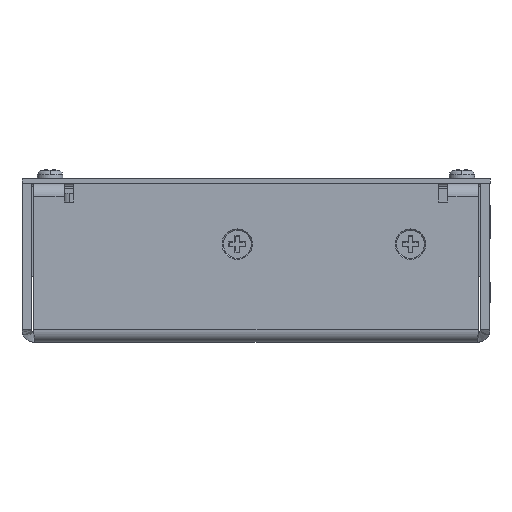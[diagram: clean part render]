
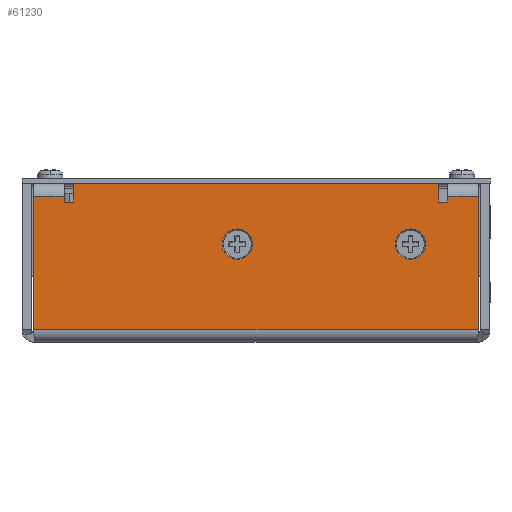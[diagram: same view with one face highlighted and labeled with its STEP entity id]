
A CAD part, front view. The second image highlights one B-rep face of the part: STEP entity #61230.
In plain terms, the highlighted planar face has unit normal (0, -1, 0).
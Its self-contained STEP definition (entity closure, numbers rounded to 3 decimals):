
#13822 = CARTESIAN_POINT ( 'NONE',  ( -178.345, -74.575, 23.463 ) ) ;
#19920 = PLANE ( 'NONE',  #50965 ) ;
#19977 = CARTESIAN_POINT ( 'NONE',  ( -178.345, -74.575, 26.2 ) ) ;
#19991 = DIRECTION ( 'NONE',  ( 0., 1., 0. ) ) ;
#19993 = DIRECTION ( 'NONE',  ( 0., 0., 1. ) ) ;
#24617 = LINE ( 'NONE', #84154, #24620 ) ;
#24620 = VECTOR ( 'NONE', #84156, 1000. ) ;
#24640 = LINE ( 'NONE', #84181, #24643 ) ;
#24643 = VECTOR ( 'NONE', #84183, 1000. ) ;
#25331 = CIRCLE ( 'NONE', #70131, 3.25 ) ;
#25458 = CIRCLE ( 'NONE', #70144, 3.25 ) ;
#28347 = AXIS2_PLACEMENT_3D ( 'NONE', #64723, #64726, #64728 ) ;
#28355 = AXIS2_PLACEMENT_3D ( 'NONE', #64775, #64777, #64779 ) ;
#29212 = VERTEX_POINT ( 'NONE', #81957 ) ;
#29643 = VERTEX_POINT ( 'NONE', #13822 ) ;
#34661 = VECTOR ( 'NONE', #64262, 1000. ) ;
#34663 = VECTOR ( 'NONE', #64252, 1000. ) ;
#34668 = LINE ( 'NONE', #64281, #34684 ) ;
#34672 = LINE ( 'NONE', #64250, #34663 ) ;
#34674 = LINE ( 'NONE', #64260, #34661 ) ;
#34676 = LINE ( 'NONE', #64286, #34690 ) ;
#34684 = VECTOR ( 'NONE', #64289, 1000. ) ;
#34690 = VECTOR ( 'NONE', #64302, 1000. ) ;
#34692 = VECTOR ( 'NONE', #64331, 1000. ) ;
#34698 = LINE ( 'NONE', #64316, #34692 ) ;
#34704 = LINE ( 'NONE', #64423, #34707 ) ;
#34707 = VECTOR ( 'NONE', #64425, 1000. ) ;
#34748 = VECTOR ( 'NONE', #64762, 1000. ) ;
#34750 = LINE ( 'NONE', #64667, #34751 ) ;
#34751 = VECTOR ( 'NONE', #64669, 1000. ) ;
#34756 = LINE ( 'NONE', #64684, #34760 ) ;
#34760 = VECTOR ( 'NONE', #64707, 1000. ) ;
#34769 = CIRCLE ( 'NONE', #28347, 3.25 ) ;
#34774 = LINE ( 'NONE', #64748, #34748 ) ;
#34778 = VECTOR ( 'NONE', #64790, 1000. ) ;
#34780 = CIRCLE ( 'NONE', #28355, 3.25 ) ;
#34781 = LINE ( 'NONE', #64769, #34778 ) ;
#38729 = CARTESIAN_POINT ( 'NONE',  ( -83.345, -74.575, 23.463 ) ) ;
#38731 = CARTESIAN_POINT ( 'NONE',  ( -91.845, -74.575, 26.2 ) ) ;
#38742 = CARTESIAN_POINT ( 'NONE',  ( -169.845, -74.575, 26.2 ) ) ;
#38743 = CARTESIAN_POINT ( 'NONE',  ( -97.845, -74.575, 9.95 ) ) ;
#38786 = CARTESIAN_POINT ( 'NONE',  ( -89.845, -74.575, 23.463 ) ) ;
#38806 = CARTESIAN_POINT ( 'NONE',  ( -89.845, -74.575, 22.2 ) ) ;
#38861 = CARTESIAN_POINT ( 'NONE',  ( -171.845, -74.575, 22.2 ) ) ;
#38896 = CARTESIAN_POINT ( 'NONE',  ( -169.845, -74.575, 22.2 ) ) ;
#38919 = CARTESIAN_POINT ( 'NONE',  ( -97.845, -74.575, 16.45 ) ) ;
#38973 = CARTESIAN_POINT ( 'NONE',  ( -134.845, -74.575, 9.95 ) ) ;
#39087 = CARTESIAN_POINT ( 'NONE',  ( -91.845, -74.575, 22.2 ) ) ;
#39095 = CARTESIAN_POINT ( 'NONE',  ( -134.845, -74.575, 16.45 ) ) ;
#39198 = FACE_BOUND ( 'NONE', #74862, .T. ) ;
#39229 = FACE_BOUND ( 'NONE', #75630, .T. ) ;
#39233 = FACE_OUTER_BOUND ( 'NONE', #47915, .T. ) ;
#44447 = EDGE_CURVE ( 'NONE', #62555, #62301, #34672, .T. ) ;
#44449 = EDGE_CURVE ( 'NONE', #62555, #62226, #34674, .T. ) ;
#44455 = EDGE_CURVE ( 'NONE', #29212, #62224, #34668, .T. ) ;
#44458 = EDGE_CURVE ( 'NONE', #62301, #62281, #34676, .T. ) ;
#44463 = EDGE_CURVE ( 'NONE', #62224, #62281, #34698, .T. ) ;
#44473 = EDGE_CURVE ( 'NONE', #58480, #29212, #34704, .T. ) ;
#44510 = EDGE_CURVE ( 'NONE', #29643, #58480, #34750, .T. ) ;
#44517 = EDGE_CURVE ( 'NONE', #62356, #58566, #34756, .T. ) ;
#44521 = EDGE_CURVE ( 'NONE', #62561, #62468, #34769, .T. ) ;
#44527 = EDGE_CURVE ( 'NONE', #58566, #29643, #34774, .T. ) ;
#44530 = EDGE_CURVE ( 'NONE', #62414, #62238, #34780, .T. ) ;
#44532 = EDGE_CURVE ( 'NONE', #62226, #62237, #34781, .T. ) ;
#47915 = EDGE_LOOP ( 'NONE', ( #63171, #63172, #63173, #63174, #63175, #63176, #63177, #63178, #63179, #63180, #63181, #63182 ) ) ;
#50965 = AXIS2_PLACEMENT_3D ( 'NONE', #19977, #19991, #19993 ) ;
#58480 = VERTEX_POINT ( 'NONE', #72293 ) ;
#58566 = VERTEX_POINT ( 'NONE', #72379 ) ;
#59513 = EDGE_CURVE ( 'NONE', #62391, #62237, #24617, .T. ) ;
#59517 = EDGE_CURVE ( 'NONE', #62391, #62356, #24640, .T. ) ;
#59659 = EDGE_CURVE ( 'NONE', #62468, #62561, #25331, .T. ) ;
#59692 = EDGE_CURVE ( 'NONE', #62238, #62414, #25458, .T. ) ;
#61230 = ADVANCED_FACE ( 'NONE', ( #39198, #39229, #39233 ), #19920, .F. ) ;
#62224 = VERTEX_POINT ( 'NONE', #38729 ) ;
#62226 = VERTEX_POINT ( 'NONE', #38731 ) ;
#62237 = VERTEX_POINT ( 'NONE', #38742 ) ;
#62238 = VERTEX_POINT ( 'NONE', #38743 ) ;
#62281 = VERTEX_POINT ( 'NONE', #38786 ) ;
#62301 = VERTEX_POINT ( 'NONE', #38806 ) ;
#62356 = VERTEX_POINT ( 'NONE', #38861 ) ;
#62391 = VERTEX_POINT ( 'NONE', #38896 ) ;
#62414 = VERTEX_POINT ( 'NONE', #38919 ) ;
#62468 = VERTEX_POINT ( 'NONE', #38973 ) ;
#62555 = VERTEX_POINT ( 'NONE', #39087 ) ;
#62561 = VERTEX_POINT ( 'NONE', #39095 ) ;
#63167 = ORIENTED_EDGE ( 'NONE', *, *, #59692, .T. ) ;
#63168 = ORIENTED_EDGE ( 'NONE', *, *, #44530, .T. ) ;
#63169 = ORIENTED_EDGE ( 'NONE', *, *, #59659, .T. ) ;
#63170 = ORIENTED_EDGE ( 'NONE', *, *, #44521, .T. ) ;
#63171 = ORIENTED_EDGE ( 'NONE', *, *, #44527, .T. ) ;
#63172 = ORIENTED_EDGE ( 'NONE', *, *, #44510, .T. ) ;
#63173 = ORIENTED_EDGE ( 'NONE', *, *, #44473, .T. ) ;
#63174 = ORIENTED_EDGE ( 'NONE', *, *, #44455, .T. ) ;
#63175 = ORIENTED_EDGE ( 'NONE', *, *, #44463, .T. ) ;
#63176 = ORIENTED_EDGE ( 'NONE', *, *, #44458, .F. ) ;
#63177 = ORIENTED_EDGE ( 'NONE', *, *, #44447, .F. ) ;
#63178 = ORIENTED_EDGE ( 'NONE', *, *, #44449, .T. ) ;
#63179 = ORIENTED_EDGE ( 'NONE', *, *, #44532, .T. ) ;
#63180 = ORIENTED_EDGE ( 'NONE', *, *, #59513, .F. ) ;
#63181 = ORIENTED_EDGE ( 'NONE', *, *, #59517, .T. ) ;
#63182 = ORIENTED_EDGE ( 'NONE', *, *, #44517, .T. ) ;
#64250 = CARTESIAN_POINT ( 'NONE',  ( -89.845, -74.575, 22.2 ) ) ;
#64252 = DIRECTION ( 'NONE',  ( 1., 0., 0. ) ) ;
#64260 = CARTESIAN_POINT ( 'NONE',  ( -91.845, -74.575, 22.2 ) ) ;
#64262 = DIRECTION ( 'NONE',  ( 0., 0., 1. ) ) ;
#64281 = CARTESIAN_POINT ( 'NONE',  ( -83.345, -74.575, -7.8 ) ) ;
#64286 = CARTESIAN_POINT ( 'NONE',  ( -89.845, -74.575, 22.2 ) ) ;
#64289 = DIRECTION ( 'NONE',  ( 0., 0., 1. ) ) ;
#64302 = DIRECTION ( 'NONE',  ( 0., 0., 1. ) ) ;
#64316 = CARTESIAN_POINT ( 'NONE',  ( -83.345, -74.575, 23.463 ) ) ;
#64331 = DIRECTION ( 'NONE',  ( -1., 0., 0. ) ) ;
#64423 = CARTESIAN_POINT ( 'NONE',  ( -178.345, -74.575, -5.063 ) ) ;
#64425 = DIRECTION ( 'NONE',  ( 1., 0., 0. ) ) ;
#64667 = CARTESIAN_POINT ( 'NONE',  ( -178.345, -74.575, -7.8 ) ) ;
#64669 = DIRECTION ( 'NONE',  ( 0., 0., -1. ) ) ;
#64684 = CARTESIAN_POINT ( 'NONE',  ( -171.845, -74.575, 26.2 ) ) ;
#64707 = DIRECTION ( 'NONE',  ( 0., 0., 1. ) ) ;
#64723 = CARTESIAN_POINT ( 'NONE',  ( -134.845, -74.575, 13.2 ) ) ;
#64726 = DIRECTION ( 'NONE',  ( 0., 1., 0. ) ) ;
#64728 = DIRECTION ( 'NONE',  ( 0., 0., 1. ) ) ;
#64748 = CARTESIAN_POINT ( 'NONE',  ( -171.845, -74.575, 23.463 ) ) ;
#64762 = DIRECTION ( 'NONE',  ( -1., 0., 0. ) ) ;
#64769 = CARTESIAN_POINT ( 'NONE',  ( -178.345, -74.575, 26.2 ) ) ;
#64775 = CARTESIAN_POINT ( 'NONE',  ( -97.845, -74.575, 13.2 ) ) ;
#64777 = DIRECTION ( 'NONE',  ( 0., 1., 0. ) ) ;
#64779 = DIRECTION ( 'NONE',  ( 0., 0., 1. ) ) ;
#64790 = DIRECTION ( 'NONE',  ( -1., 0., 0. ) ) ;
#70131 = AXIS2_PLACEMENT_3D ( 'NONE', #85195, #85211, #85214 ) ;
#70144 = AXIS2_PLACEMENT_3D ( 'NONE', #85416, #85443, #85446 ) ;
#72293 = CARTESIAN_POINT ( 'NONE',  ( -178.345, -74.575, -5.063 ) ) ;
#72379 = CARTESIAN_POINT ( 'NONE',  ( -171.845, -74.575, 23.463 ) ) ;
#74862 = EDGE_LOOP ( 'NONE', ( #63167, #63168 ) ) ;
#75630 = EDGE_LOOP ( 'NONE', ( #63169, #63170 ) ) ;
#81957 = CARTESIAN_POINT ( 'NONE',  ( -83.345, -74.575, -5.063 ) ) ;
#84154 = CARTESIAN_POINT ( 'NONE',  ( -169.845, -74.575, 26.2 ) ) ;
#84156 = DIRECTION ( 'NONE',  ( 0., 0., 1. ) ) ;
#84181 = CARTESIAN_POINT ( 'NONE',  ( -178.345, -74.575, 22.2 ) ) ;
#84183 = DIRECTION ( 'NONE',  ( -1., 0., 0. ) ) ;
#85195 = CARTESIAN_POINT ( 'NONE',  ( -134.845, -74.575, 13.2 ) ) ;
#85211 = DIRECTION ( 'NONE',  ( 0., 1., 0. ) ) ;
#85214 = DIRECTION ( 'NONE',  ( 0., 0., 1. ) ) ;
#85416 = CARTESIAN_POINT ( 'NONE',  ( -97.845, -74.575, 13.2 ) ) ;
#85443 = DIRECTION ( 'NONE',  ( 0., 1., 0. ) ) ;
#85446 = DIRECTION ( 'NONE',  ( 0., 0., 1. ) ) ;
